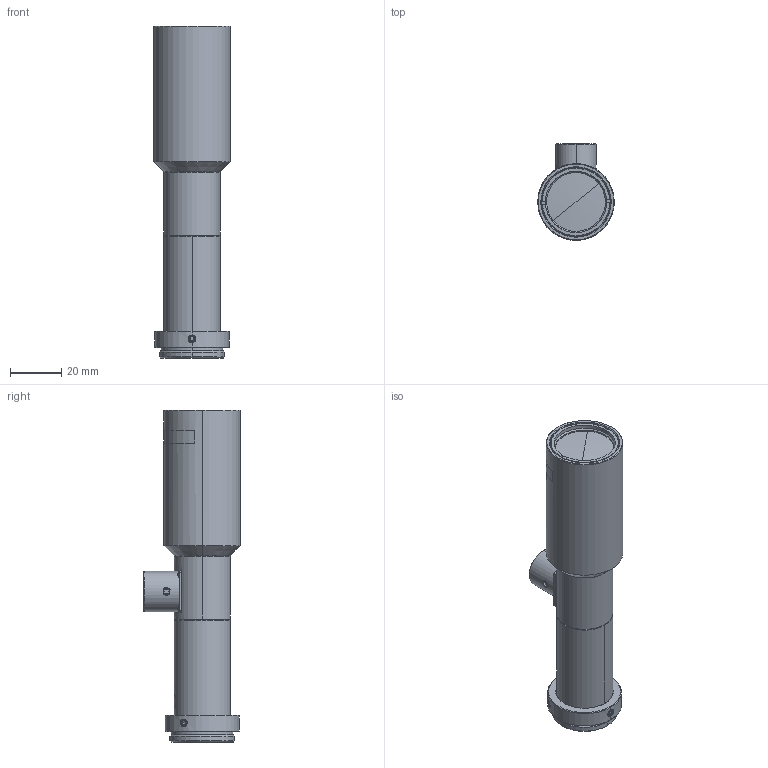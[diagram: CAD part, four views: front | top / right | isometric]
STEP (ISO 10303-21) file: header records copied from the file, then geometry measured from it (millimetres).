
FILE_DESCRIPTION (( 'STEP AP214' ), '1' );
FILE_NAME ('TEC-M08110MPC_210308.STEP', '2021-03-11T07:08:41', ( '' ), ( '' ), 'SwSTEP 2.0', 'SolidWorks 2019', '' );
FILE_SCHEMA (( 'AUTOMOTIVE_DESIGN' ));
Length unit declared in the file: millimetre
Products named in the file (1): TEC-M08110MPC_210308
Bounding box: 30 x 38 x 130.07 mm (x, y, z)
Volume: 34694.3 mm3; surface area: 27393.6 mm2
Topology: 17 solids, 17 shells, 537 faces, 1247 edges, 772 vertices
Faces by surface type: plane 209, cylinder 147, cone 145, torus 16, sphere 12, bspline 8
Entity records: 22927 total; most frequent: CARTESIAN_POINT 4297, DIRECTION 2793, ORIENTED_EDGE 2478, EDGE_CURVE 1239, AXIS2_PLACEMENT_3D 1121, VERTEX_POINT 772, EDGE_LOOP 605, CIRCLE 591
